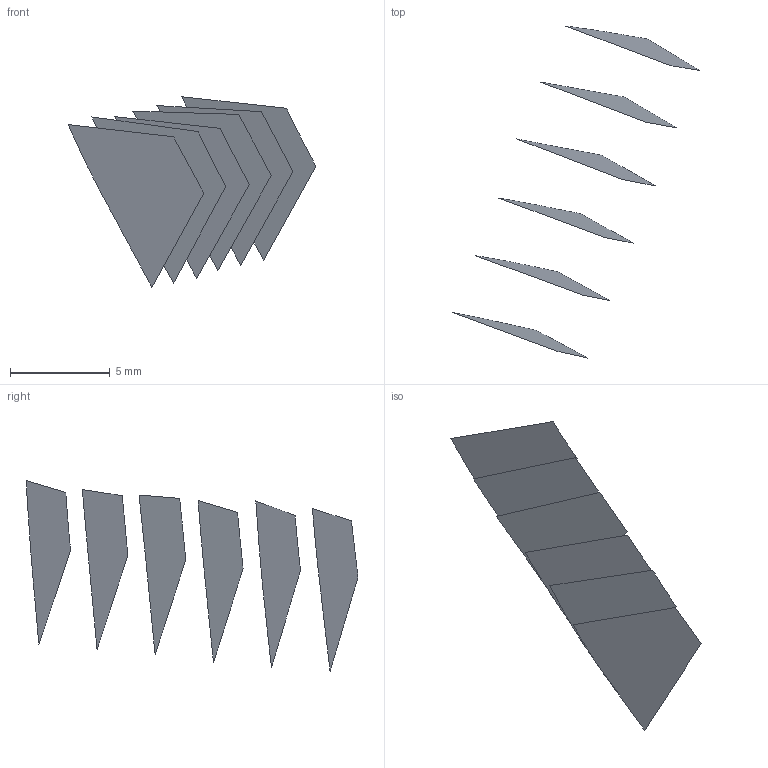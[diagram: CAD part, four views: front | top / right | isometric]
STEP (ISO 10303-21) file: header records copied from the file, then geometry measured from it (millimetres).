
FILE_DESCRIPTION(('FreeCAD Model'),'2;1');
FILE_NAME('Open CASCADE Shape Model','2022-05-22T07:50:31',('FreeCAD'),( 'FreeCAD'),'Open CASCADE STEP processor 7.5','FreeCAD','Unknown');
FILE_SCHEMA(('AUTOMOTIVE_DESIGN { 1 0 10303 214 1 1 1 1 }'));
Length unit declared in the file: millimetre
Products named in the file (7): Open CASCADE STEP translator 7.5 52; Open CASCADE STEP translator 7.5 52.1; Open CASCADE STEP translator 7.5 52.2; Open CASCADE STEP translator 7.5 52.3; Open CASCADE STEP translator 7.5 52.4; Open CASCADE STEP translator 7.5 52.5; Open CASCADE STEP translator 7.5 52.6
Assembly tree (6 placements, depth 2):
  Open CASCADE STEP translator 7.5 52
    Open CASCADE STEP translator 7.5 52.1
    Open CASCADE STEP translator 7.5 52.2
    Open CASCADE STEP translator 7.5 52.3
    Open CASCADE STEP translator 7.5 52.4
    Open CASCADE STEP translator 7.5 52.5
    Open CASCADE STEP translator 7.5 52.6
Bounding box: 12.41 x 16.62 x 9.55 mm (x, y, z)
Surface area: 181.8 mm2 (no closed solid volume)
Topology: 0 solids, 6 shells, 6 faces, 132 edges, 132 vertices
Faces by surface type: bspline 6
Entity records: 1900 total; most frequent: CARTESIAN_POINT 691, B_SPLINE_CURVE_WITH_KNOTS 264, ORIENTED_EDGE 132, EDGE_CURVE 132, VERTEX_POINT 132, SURFACE_CURVE 132, PCURVE 132, DEFINITIONAL_REPRESENTATION 132
